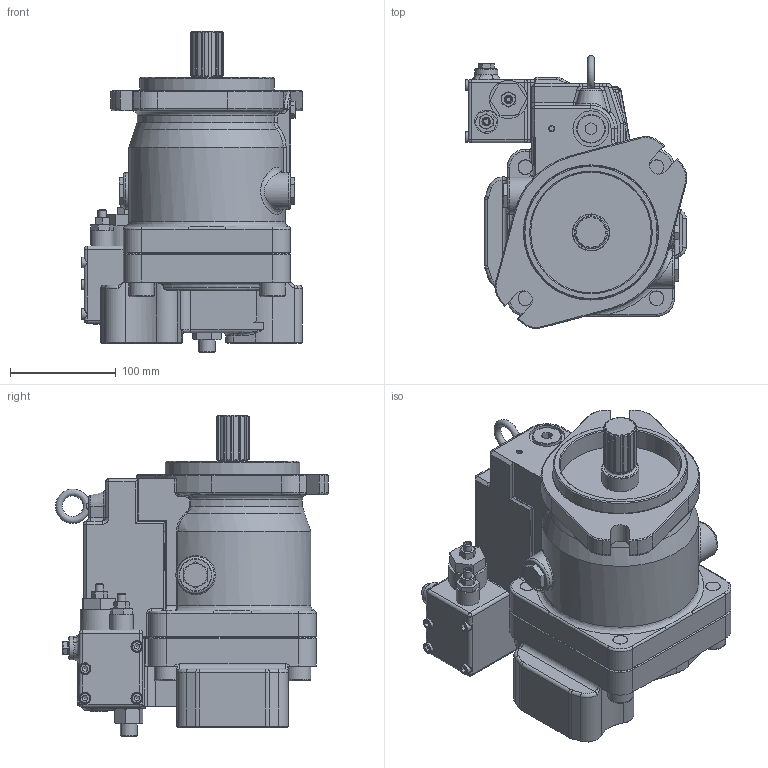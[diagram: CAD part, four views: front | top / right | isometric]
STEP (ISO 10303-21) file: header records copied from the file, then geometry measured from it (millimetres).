
FILE_DESCRIPTION((''),'2;1');
FILE_NAME('J:\Inventor\K3V, M2X\MODEL LIBRARY\K3VL80B 1RLSM LO.stp','2007-11-23T13:15:23',('mnorman'),(''),'Autodesk Inventor 2008','Autodesk Inventor 2008','');
FILE_SCHEMA(('AUTOMOTIVE_DESIGN { 1 0 10303 214 1 1 1 1 }'));
Length unit declared in the file: millimetre
Products named in the file (1): Part5
Bounding box: 209.73 x 258.06 x 303.8 mm (x, y, z)
Volume: 6156291.1 mm3; surface area: 364643.8 mm2
Topology: 13 solids, 17 shells, 1078 faces, 2556 edges, 1538 vertices
Faces by surface type: plane 415, cylinder 248, bspline 190, cone 165, torus 51, sphere 9
Full cylindrical faces by diameter (mm): 6 x5, 6.5 x4, 8 x4, 10 x4, 11 x4, 11.63 x1, 12.489 x2, 16 x8, 21 x1, 22 x2, 24 x4, 25 x1, 26.5 x1, 27 x1, 30 x2, 34 x1, 35 x2, 36 x1, 50 x1, 114 x2, 127 x1
Entity records: 41573 total; most frequent: CARTESIAN_POINT 18217, ORIENTED_EDGE 4666, DIRECTION 4501, EDGE_CURVE 2333, AXIS2_PLACEMENT_3D 1776, VERTEX_POINT 1476, EDGE_LOOP 1279, FACE_OUTER_BOUND 1078
